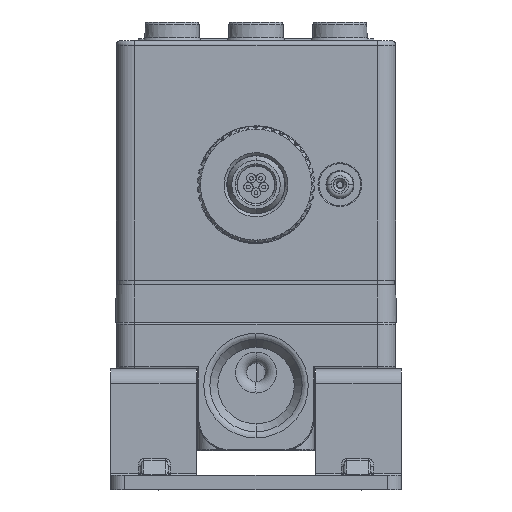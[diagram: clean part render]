
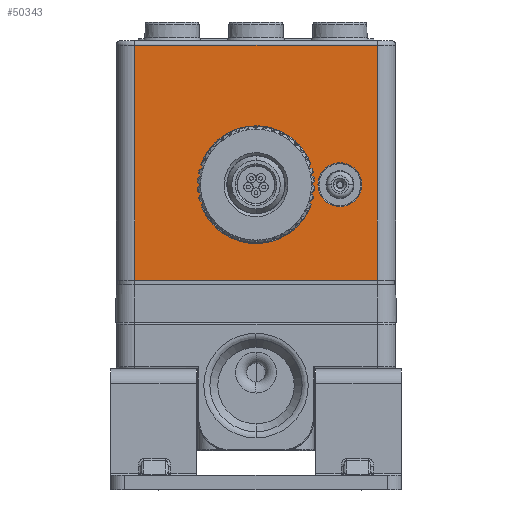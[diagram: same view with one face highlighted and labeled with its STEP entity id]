
A CAD part, front view. The second image highlights one B-rep face of the part: STEP entity #50343.
In plain terms, the highlighted planar face has unit normal (0, -1, 0).
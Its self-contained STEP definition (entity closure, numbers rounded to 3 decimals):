
#16412=DIRECTION('',(1.,0.,0.));
#16413=VECTOR('',#16412,26.);
#16414=CARTESIAN_POINT('',(-13.,-15.,4.5));
#16415=LINE('',#16414,#16413);
#16416=DIRECTION('',(0.,0.,-1.));
#16417=VECTOR('',#16416,25.2);
#16418=CARTESIAN_POINT('',(-13.,-15.,29.7));
#16419=LINE('',#16418,#16417);
#16420=DIRECTION('',(1.,0.,0.));
#16421=VECTOR('',#16420,26.);
#16422=CARTESIAN_POINT('',(-13.,-15.,29.7));
#16423=LINE('',#16422,#16421);
#16424=DIRECTION('',(0.,0.,-1.));
#16425=VECTOR('',#16424,25.2);
#16426=CARTESIAN_POINT('',(13.,-15.,29.7));
#16427=LINE('',#16426,#16425);
#16428=CARTESIAN_POINT('',(0.,-15.,14.75));
#16429=DIRECTION('',(0.,-1.,0.));
#16430=DIRECTION('',(-0.898,0.,-0.44));
#16431=AXIS2_PLACEMENT_3D('',#16428,#16429,#16430);
#16433=DIRECTION('',(-0.017,0.,-1.));
#16434=VECTOR('',#16433,2.35);
#16435=CARTESIAN_POINT('',(5.8,-15.,14.75));
#16436=LINE('',#16435,#16434);
#16437=DIRECTION('',(0.017,0.,-1.));
#16438=VECTOR('',#16437,2.35);
#16439=CARTESIAN_POINT('',(5.759,-15.,17.1));
#16440=LINE('',#16439,#16438);
#16441=CARTESIAN_POINT('',(0.,-15.,14.75));
#16442=DIRECTION('',(0.,-1.,0.));
#16443=DIRECTION('',(0.898,0.,0.44));
#16444=AXIS2_PLACEMENT_3D('',#16441,#16442,#16443);
#16446=DIRECTION('',(0.017,0.,1.));
#16447=VECTOR('',#16446,2.35);
#16448=CARTESIAN_POINT('',(-5.8,-15.,14.75));
#16449=LINE('',#16448,#16447);
#16450=DIRECTION('',(-0.017,0.,1.));
#16451=VECTOR('',#16450,2.35);
#16452=CARTESIAN_POINT('',(-5.759,-15.,12.4));
#16453=LINE('',#16452,#16451);
#16454=CARTESIAN_POINT('',(9.,-15.,14.75));
#16455=DIRECTION('',(0.,1.,0.));
#16456=DIRECTION('',(-1.,0.,0.));
#16457=AXIS2_PLACEMENT_3D('',#16454,#16455,#16456);
#16459=CARTESIAN_POINT('',(9.,-15.,14.75));
#16460=DIRECTION('',(0.,1.,0.));
#16461=DIRECTION('',(1.,0.,0.));
#16462=AXIS2_PLACEMENT_3D('',#16459,#16460,#16461);
#21752=CARTESIAN_POINT('',(-4.759,-15.,17.083));
#21753=DIRECTION('',(0.,1.,0.));
#21754=DIRECTION('',(-1.,0.,0.017));
#21755=AXIS2_PLACEMENT_3D('',#21752,#21753,#21754);
#22529=CARTESIAN_POINT('',(4.759,-15.,17.083));
#22530=DIRECTION('',(0.,1.,0.));
#22531=DIRECTION('',(0.898,0.,0.44));
#22532=AXIS2_PLACEMENT_3D('',#22529,#22530,#22531);
#22584=CARTESIAN_POINT('',(4.759,-15.,12.417));
#22585=DIRECTION('',(0.,1.,0.));
#22586=DIRECTION('',(1.,0.,-0.017));
#22587=AXIS2_PLACEMENT_3D('',#22584,#22585,#22586);
#25832=CARTESIAN_POINT('',(-4.759,-15.,12.417));
#25833=DIRECTION('',(0.,1.,0.));
#25834=DIRECTION('',(-0.898,0.,-0.44));
#25835=AXIS2_PLACEMENT_3D('',#25832,#25833,#25834);
#28293=CARTESIAN_POINT('',(-13.,-15.,4.5));
#28294=CARTESIAN_POINT('',(13.,-15.,4.5));
#28295=VERTEX_POINT('',#28293);
#28296=VERTEX_POINT('',#28294);
#28317=CARTESIAN_POINT('',(13.,-15.,29.7));
#28318=VERTEX_POINT('',#28317);
#28323=CARTESIAN_POINT('',(-13.,-15.,29.7));
#28324=VERTEX_POINT('',#28323);
#28425=CARTESIAN_POINT('',(6.646,-15.,14.75));
#28426=CARTESIAN_POINT('',(11.354,-15.,14.75));
#28427=VERTEX_POINT('',#28425);
#28428=VERTEX_POINT('',#28426);
#28619=CARTESIAN_POINT('',(5.8,-15.,14.75));
#28620=VERTEX_POINT('',#28619);
#28630=CARTESIAN_POINT('',(5.759,-15.,17.1));
#28631=VERTEX_POINT('',#28630);
#28632=CARTESIAN_POINT('',(5.759,-15.,12.4));
#28633=VERTEX_POINT('',#28632);
#28634=CARTESIAN_POINT('',(5.657,-15.,17.523));
#28635=VERTEX_POINT('',#28634);
#28636=CARTESIAN_POINT('',(5.657,-15.,11.977));
#28637=VERTEX_POINT('',#28636);
#28645=CARTESIAN_POINT('',(-5.657,-15.,17.523));
#28646=VERTEX_POINT('',#28645);
#28647=CARTESIAN_POINT('',(-5.657,-15.,11.977));
#28648=VERTEX_POINT('',#28647);
#28659=CARTESIAN_POINT('',(-5.759,-15.,12.4));
#28660=CARTESIAN_POINT('',(-5.8,-15.,14.75));
#28661=VERTEX_POINT('',#28659);
#28662=VERTEX_POINT('',#28660);
#28663=CARTESIAN_POINT('',(-5.759,-15.,17.1));
#28664=VERTEX_POINT('',#28663);
#50302=CARTESIAN_POINT('',(-15.,-15.,2.9));
#50303=DIRECTION('',(0.,-1.,0.));
#50304=DIRECTION('',(1.,0.,0.));
#50305=AXIS2_PLACEMENT_3D('',#50302,#50303,#50304);
#50306=PLANE('',#50305);
#50307=ORIENTED_EDGE('',*,*,#48995,.F.);
#50309=ORIENTED_EDGE('',*,*,#50308,.F.);
#50311=ORIENTED_EDGE('',*,*,#50310,.T.);
#50312=ORIENTED_EDGE('',*,*,#50294,.T.);
#50313=EDGE_LOOP('',(#50307,#50309,#50311,#50312));
#50314=FACE_OUTER_BOUND('',#50313,.F.);
#50316=ORIENTED_EDGE('',*,*,#50315,.T.);
#50318=ORIENTED_EDGE('',*,*,#50317,.F.);
#50320=ORIENTED_EDGE('',*,*,#50319,.F.);
#50322=ORIENTED_EDGE('',*,*,#50321,.F.);
#50324=ORIENTED_EDGE('',*,*,#50323,.F.);
#50326=ORIENTED_EDGE('',*,*,#50325,.T.);
#50328=ORIENTED_EDGE('',*,*,#50327,.F.);
#50330=ORIENTED_EDGE('',*,*,#50329,.F.);
#50332=ORIENTED_EDGE('',*,*,#50331,.F.);
#50334=ORIENTED_EDGE('',*,*,#50333,.F.);
#50335=EDGE_LOOP('',(#50316,#50318,#50320,#50322,#50324,#50326,#50328,#50330,
#50332,#50334));
#50336=FACE_BOUND('',#50335,.F.);
#50338=ORIENTED_EDGE('',*,*,#50337,.F.);
#50340=ORIENTED_EDGE('',*,*,#50339,.F.);
#50341=EDGE_LOOP('',(#50338,#50340));
#50342=FACE_BOUND('',#50341,.F.);
#50343=ADVANCED_FACE('',(#50314,#50336,#50342),#50306,.T.);
#16432=CIRCLE('',#16431,6.3);
#16445=CIRCLE('',#16444,6.3);
#16458=CIRCLE('',#16457,2.354);
#16463=CIRCLE('',#16462,2.354);
#21756=CIRCLE('',#21755,1.);
#22533=CIRCLE('',#22532,1.);
#22588=CIRCLE('',#22587,1.);
#25836=CIRCLE('',#25835,1.);
#48995=EDGE_CURVE('',#28295,#28296,#16415,.T.);
#50294=EDGE_CURVE('',#28318,#28296,#16427,.T.);
#50308=EDGE_CURVE('',#28324,#28295,#16419,.T.);
#50310=EDGE_CURVE('',#28324,#28318,#16423,.T.);
#50315=EDGE_CURVE('',#28648,#28637,#16432,.T.);
#50317=EDGE_CURVE('',#28633,#28637,#22588,.T.);
#50319=EDGE_CURVE('',#28620,#28633,#16436,.T.);
#50321=EDGE_CURVE('',#28631,#28620,#16440,.T.);
#50323=EDGE_CURVE('',#28635,#28631,#22533,.T.);
#50325=EDGE_CURVE('',#28635,#28646,#16445,.T.);
#50327=EDGE_CURVE('',#28664,#28646,#21756,.T.);
#50329=EDGE_CURVE('',#28662,#28664,#16449,.T.);
#50331=EDGE_CURVE('',#28661,#28662,#16453,.T.);
#50333=EDGE_CURVE('',#28648,#28661,#25836,.T.);
#50337=EDGE_CURVE('',#28427,#28428,#16458,.T.);
#50339=EDGE_CURVE('',#28428,#28427,#16463,.T.);
